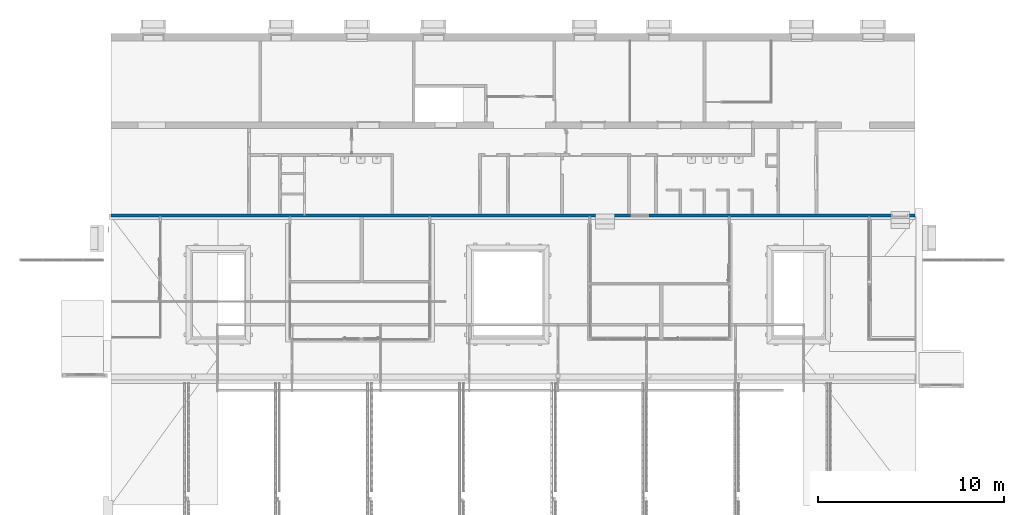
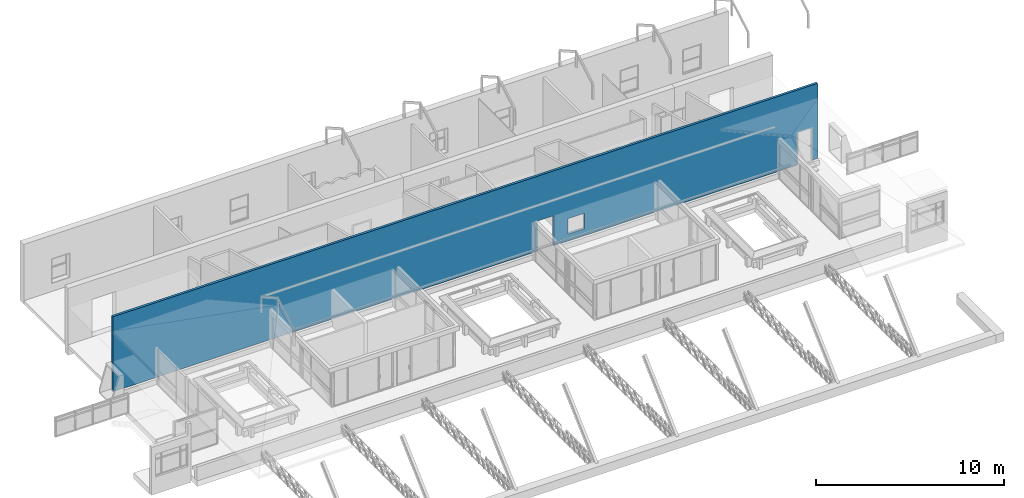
# One storey, part 140 of 153: 1 wall, 3 openings.
"""IFC4 building model written with IfcOpenShell, lengths in metres."""

from ifc_helpers import new_model, entity, si_unit, converted_unit, derived_unit, direction, frame, origin, place, context, subcontext, project, spatial, indexed_curve, outline, extrude, polygons, material, type_object, element, save


model = new_model("IFC4")

# Units and contexts
model_context = context("Model", 3, precision=1e-05, world=origin(), true_north=direction((6.123031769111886e-17, 1.0)))
body_context = subcontext(model_context, "Body", "Model", "MODEL_VIEW")
ifc_project = project(units=[si_unit("LENGTHUNIT", "METRE"), si_unit("AREAUNIT", "SQUARE_METRE"), si_unit("VOLUMEUNIT", "CUBIC_METRE"), converted_unit("PLANEANGLEUNIT", "DEGREE", entity("IfcRatioMeasure", 0.017453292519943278), si_unit("PLANEANGLEUNIT", "RADIAN"), dimensions=[0, 0, 0, 0, 0, 0, 0]), si_unit("MASSUNIT", "GRAM", prefix="KILO"), derived_unit("MASSDENSITYUNIT", [(si_unit("MASSUNIT", "GRAM", prefix="KILO"), 1), (si_unit("LENGTHUNIT", "METRE"), -3)]), derived_unit("MOMENTOFINERTIAUNIT", [(si_unit("LENGTHUNIT", "METRE"), 4)]), si_unit("TIMEUNIT", "SECOND"), si_unit("FREQUENCYUNIT", "HERTZ"), si_unit("THERMODYNAMICTEMPERATUREUNIT", "DEGREE_CELSIUS"), derived_unit("THERMALTRANSMITTANCEUNIT", [(si_unit("MASSUNIT", "GRAM", prefix="KILO"), 1), (si_unit("THERMODYNAMICTEMPERATUREUNIT", "KELVIN"), -1), (si_unit("TIMEUNIT", "SECOND"), -3)]), derived_unit("VOLUMETRICFLOWRATEUNIT", [(si_unit("LENGTHUNIT", "METRE"), 3), (si_unit("TIMEUNIT", "SECOND"), -1)]), derived_unit("MASSFLOWRATEUNIT", [(si_unit("MASSUNIT", "GRAM", prefix="KILO"), 1), (si_unit("TIMEUNIT", "SECOND"), -1)]), derived_unit("ROTATIONALFREQUENCYUNIT", [(si_unit("TIMEUNIT", "SECOND"), -1)]), si_unit("ELECTRICCURRENTUNIT", "AMPERE"), si_unit("ELECTRICVOLTAGEUNIT", "VOLT"), si_unit("POWERUNIT", "WATT"), si_unit("FORCEUNIT", "NEWTON", prefix="KILO"), si_unit("ILLUMINANCEUNIT", "LUX"), si_unit("LUMINOUSFLUXUNIT", "LUMEN"), si_unit("LUMINOUSINTENSITYUNIT", "CANDELA"), derived_unit("USERDEFINED", [(si_unit("MASSUNIT", "GRAM", prefix="KILO"), -1), (si_unit("LENGTHUNIT", "METRE"), -2), (si_unit("TIMEUNIT", "SECOND"), 3), (si_unit("LUMINOUSFLUXUNIT", "LUMEN"), 1)]), derived_unit("SOUNDPOWERUNIT", [(si_unit("MASSUNIT", "GRAM", prefix="KILO"), 1), (si_unit("LENGTHUNIT", "METRE"), 2), (si_unit("TIMEUNIT", "SECOND"), -3)]), derived_unit("SOUNDPRESSUREUNIT", [(si_unit("MASSUNIT", "GRAM", prefix="KILO"), 1), (si_unit("LENGTHUNIT", "METRE"), -1), (si_unit("TIMEUNIT", "SECOND"), -2)]), derived_unit("LINEARVELOCITYUNIT", [(si_unit("LENGTHUNIT", "METRE"), 1), (si_unit("TIMEUNIT", "SECOND"), -1)]), si_unit("PRESSUREUNIT", "PASCAL"), derived_unit("USERDEFINED", [(si_unit("LENGTHUNIT", "METRE"), -2), (si_unit("MASSUNIT", "GRAM", prefix="KILO"), 1), (si_unit("TIMEUNIT", "SECOND"), -2)]), derived_unit("LINEARFORCEUNIT", [(si_unit("MASSUNIT", "GRAM", prefix="KILO"), 1), (si_unit("LENGTHUNIT", "METRE"), 1), (si_unit("TIMEUNIT", "SECOND"), -2), (si_unit("LENGTHUNIT", "METRE"), -1)]), derived_unit("PLANARFORCEUNIT", [(si_unit("MASSUNIT", "GRAM", prefix="KILO"), 1), (si_unit("LENGTHUNIT", "METRE"), 1), (si_unit("TIMEUNIT", "SECOND"), -2), (si_unit("LENGTHUNIT", "METRE"), -2)])], contexts=[model_context])

# Site, building, storey
site_placement = place(None, origin())
site = spatial("IfcSite", under=ifc_project, at=site_placement, Name="Superficie", CompositionType="ELEMENT")
building_placement = place(site_placement, origin())
building = spatial("IfcBuilding", under=site, at=building_placement, CompositionType="ELEMENT")
storey_placement = place(building_placement, frame((0.0, 0.0, 3.5999999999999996)))
storey = spatial("IfcBuildingStorey", under=building, at=storey_placement, Name="Nivel 1", CompositionType="ELEMENT", Elevation=3.5999999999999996)

# Wall, openings
ifc_material = material(Name="Muro por defecto", Category="Varios")
wall_type = type_object("IfcWallType", Name="Muro básico:Por defecto - 15 cm 2", PredefinedType="STANDARD")
wall_placement = place(storey_placement, frame((20.586799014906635, 5.700829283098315, 0.3499999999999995), z_axis=(0.0, 0.0, 1.0), x_axis=(-1.0, 0.0, 0.0)))
wall = element("IfcWall", 1, at=wall_placement, inside=storey, type_object=wall_type, material=ifc_material, Name="Muro básico:Por defecto - 15 cm 2", ObjectType="Muro básico:Por defecto - 15 cm 2", PredefinedType="NOTDEFINED", context=body_context, shape_type="Tessellation", body=[
    polygons([(43.23, -0.07499999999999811, 4.862445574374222), (5.727197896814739e-15, -0.07499999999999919, 4.862445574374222), (1.3957293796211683e-15, -0.07499999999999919, 1.0828671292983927e-15), (0.37000000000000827, -0.07499999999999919, 1.0828671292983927e-15), (0.37000000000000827, -0.07499999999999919, 2.0899999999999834), (1.2500000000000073, -0.07499999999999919, 2.0899999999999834), (1.2500000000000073, -0.07499999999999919, 1.0828671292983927e-15), (16.18269699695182, -0.07499999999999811, 1.0828671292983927e-15), (16.18269699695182, -0.07499999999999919, 1.949999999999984), (17.182720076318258, -0.07499999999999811, 1.949999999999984), (17.182720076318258, -0.07499999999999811, 1.0828671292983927e-15), (43.23, -0.07499999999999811, 1.0828671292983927e-15), (14.305797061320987, -0.07499999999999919, 0.4500000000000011), (14.305797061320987, -0.07499999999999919, 1.4500000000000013), (15.305797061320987, -0.07499999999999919, 1.4500000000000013), (15.305797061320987, -0.07499999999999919, 0.4500000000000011), (9.09523783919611e-16, 0.07500000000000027, 4.862445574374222), (43.23000000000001, 0.07500000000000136, 4.862445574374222), (43.23, 0.07500000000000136, 1.0828671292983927e-15), (40.62999999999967, 0.07500000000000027, 5.414335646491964e-16), (40.52999999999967, 0.07500000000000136, 5.414335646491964e-16), (33.65999999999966, 0.07500000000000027, 5.414335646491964e-16), (33.55999999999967, 0.07500000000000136, 5.414335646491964e-16), (29.859999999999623, 0.07500000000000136, 5.414335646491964e-16), (29.65999999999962, 0.07500000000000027, 5.414335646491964e-16), (26.15499999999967, 0.07500000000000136, 5.414335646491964e-16), (26.054999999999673, 0.07500000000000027, 5.414335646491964e-16), (17.545000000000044, 0.07500000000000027, 5.414335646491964e-16), (17.44500000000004, 0.07500000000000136, 5.414335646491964e-16), (17.182720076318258, 0.07500000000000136, 1.0828671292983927e-15), (17.182720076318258, 0.07500000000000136, 1.949999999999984), (16.182696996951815, 0.07500000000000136, 1.949999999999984), (16.182696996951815, 0.07500000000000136, 1.0828671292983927e-15), (10.040000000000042, 0.07500000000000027, 5.414335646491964e-16), (9.940000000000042, 0.07500000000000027, 5.414335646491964e-16), (2.5100000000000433, 0.07500000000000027, 5.414335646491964e-16), (2.4100000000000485, 0.07500000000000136, 5.414335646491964e-16), (1.250000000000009, 0.07500000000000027, 1.0828671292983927e-15), (1.2500000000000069, 0.07500000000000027, 2.0899999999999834), (0.3700000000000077, 0.07500000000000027, 2.0899999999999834), (0.3700000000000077, 0.07500000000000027, 1.0828671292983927e-15), (5.240992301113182e-15, 0.07500000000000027, 1.0828671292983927e-15), (14.305797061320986, 0.07500000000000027, 0.4500000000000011), (15.305797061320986, 0.07500000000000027, 0.4500000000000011), (15.305797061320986, 0.07500000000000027, 1.4500000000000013), (14.305797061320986, 0.07500000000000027, 1.4500000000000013)], [[[1, 2, 3, 4, 5, 6, 7, 8, 9, 10, 11, 12], [13, 14, 15, 16]], [[17, 18, 19, 20, 21, 22, 23, 24, 25, 26, 27, 28, 29, 30, 31, 32, 33, 34, 35, 36, 37, 38, 39, 40, 41, 42], [43, 44, 45, 46]], [[3, 42, 41, 4]], [[2, 1, 18, 17]], [[14, 13, 43, 46]], [[15, 14, 46, 45]], [[16, 15, 45, 44]], [[13, 16, 44, 43]], [[3, 2, 17, 42]], [[6, 39, 38, 7]], [[39, 6, 5, 40]], [[40, 5, 4, 41]], [[9, 32, 31, 10]], [[32, 9, 8, 33]], [[10, 31, 30, 11]], [[1, 12, 19, 18]], [[12, 11, 30, 29, 28, 27, 26, 25, 24, 23, 22, 21, 20, 19]], [[33, 8, 7, 38, 37, 36, 35, 34]]], closed=True),
])
opening_1_placement = place(wall_placement, origin())
element("IfcOpeningElement", 2, at=opening_1_placement, cuts=wall, Name="Muro básico:Por defecto - 15 cm 2", PredefinedType="OPENING", context=body_context, shape_type="SweptSolid", body=[
    extrude(outline(indexed_curve([(-0.9749999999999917, -0.500011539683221), (0.9749999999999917, -0.500011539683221), (0.9749999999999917, 0.500011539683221), (-0.9749999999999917, 0.500011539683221), (-0.9749999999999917, -0.500011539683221)], self_intersect=False)), frame((16.682708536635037, -0.07500000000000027, 0.9749999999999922), z_axis=(0.0, 1.0, 0.0), x_axis=(0.0, 0.0, -1.0)), (0.0, 0.0, 1.0), 0.15000000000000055),
])
opening_2_placement = place(wall_placement, frame((0.3700000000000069, -0.07500000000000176, -0.009999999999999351)))
element("IfcOpeningElement", 3, at=opening_2_placement, cuts=wall, Name="Puerta de 1 hoja:88 x 210 cm 3:1", PredefinedType="OPENING", context=body_context, shape_type="SweptSolid", body=[
    extrude(outline(indexed_curve([(0.0, 0.8800000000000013), (0.0, -1.2888184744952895e-30), (2.0999999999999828, -1.2888184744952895e-30), (2.099999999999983, 0.8800000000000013), (0.0, 0.8800000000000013)], self_intersect=False)), frame((0.0, 0.0, 0.0), z_axis=(0.0, 1.0, 0.0), x_axis=(0.0, 0.0, 1.0)), (0.0, 0.0, 1.0), 0.14999999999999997),
])
opening_3_placement = place(wall_placement, frame((14.305797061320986, -0.07500000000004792, 0.4500000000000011)))
element("IfcOpeningElement", 4, at=opening_3_placement, cuts=wall, Name="Ventana simple:109 x 100 cm 2:1", PredefinedType="OPENING", context=body_context, shape_type="SweptSolid", body=[
    extrude(outline(indexed_curve([(0.0, 5.414335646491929e-16), (1.0, 5.414335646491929e-16), (0.9999999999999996, 1.0), (0.0, 1.0), (0.0, 5.414335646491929e-16)], self_intersect=False)), frame((0.0, 0.0, 0.0), z_axis=(0.0, 1.0, 0.0), x_axis=(0.0, 0.0, 1.0)), (0.0, 0.0, 1.0), 0.14999999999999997),
])

save(model, "model.ifc")
